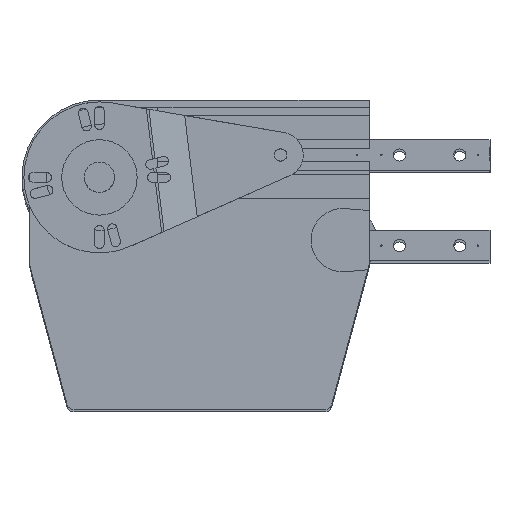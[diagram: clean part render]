
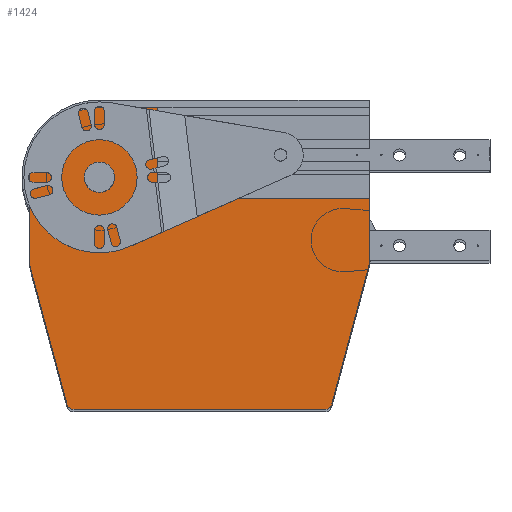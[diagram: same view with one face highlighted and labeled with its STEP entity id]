
A CAD part, top view. The second image highlights one B-rep face of the part: STEP entity #1424.
In plain terms, the highlighted planar face has unit normal (0, 0, 1).
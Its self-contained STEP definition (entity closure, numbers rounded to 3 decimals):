
#78 = ORIENTED_EDGE ( 'NONE', *, *, #3998, .T. ) ;
#103 = CARTESIAN_POINT ( 'NONE',  ( 5.17, -109.636, 462.5 ) ) ;
#144 = VECTOR ( 'NONE', #7462, 1000. ) ;
#193 = CARTESIAN_POINT ( 'NONE',  ( 29.73, -201.294, 462.5 ) ) ;
#289 = CARTESIAN_POINT ( 'NONE',  ( 230., -109., 462.5 ) ) ;
#369 = ORIENTED_EDGE ( 'NONE', *, *, #5539, .T. ) ;
#510 = CARTESIAN_POINT ( 'NONE',  ( 90., -46.4, 462.5 ) ) ;
#560 = ORIENTED_EDGE ( 'NONE', *, *, #2603, .T. ) ;
#569 = CIRCLE ( 'NONE', #5041, 10. ) ;
#627 = LINE ( 'NONE', #5972, #805 ) ;
#669 = DIRECTION ( 'NONE',  ( 0., 0., -1. ) ) ;
#729 = CIRCLE ( 'NONE', #3255, 46.3 ) ;
#741 = CIRCLE ( 'NONE', #4893, 5. ) ;
#782 = VERTEX_POINT ( 'NONE', #2668 ) ;
#805 = VECTOR ( 'NONE', #1691, 1000. ) ;
#840 = VERTEX_POINT ( 'NONE', #5872 ) ;
#874 = VERTEX_POINT ( 'NONE', #2801 ) ;
#960 = CARTESIAN_POINT ( 'NONE',  ( 10., -108.342, 462.5 ) ) ;
#969 = EDGE_CURVE ( 'NONE', #1595, #6910, #6181, .T. ) ;
#978 = DIRECTION ( 'NONE',  ( -1., 0., 0. ) ) ;
#1175 = CARTESIAN_POINT ( 'NONE',  ( 90., -5., 462.5 ) ) ;
#1298 = ORIENTED_EDGE ( 'NONE', *, *, #2042, .T. ) ;
#1424 = ADVANCED_FACE ( 'NONE', ( #1848, #2424 ), #7281, .F. ) ;
#1537 = CARTESIAN_POINT ( 'NONE',  ( 200.44, -200., 462.5 ) ) ;
#1554 = CARTESIAN_POINT ( 'NONE',  ( 51.3, -51.3, 462.5 ) ) ;
#1566 = ORIENTED_EDGE ( 'NONE', *, *, #7501, .T. ) ;
#1595 = VERTEX_POINT ( 'NONE', #1175 ) ;
#1655 = CARTESIAN_POINT ( 'NONE',  ( 41.3, -51.3, 462.5 ) ) ;
#1691 = DIRECTION ( 'NONE',  ( 0.259, 0.966, 0. ) ) ;
#1848 = FACE_BOUND ( 'NONE', #5198, .T. ) ;
#1955 = EDGE_CURVE ( 'NONE', #874, #782, #6588, .T. ) ;
#2042 = EDGE_CURVE ( 'NONE', #3934, #6827, #6800, .T. ) ;
#2089 = LINE ( 'NONE', #4288, #144 ) ;
#2152 = CARTESIAN_POINT ( 'NONE',  ( 5., -51.3, 462.5 ) ) ;
#2157 = ORIENTED_EDGE ( 'NONE', *, *, #2423, .T. ) ;
#2193 = DIRECTION ( 'NONE',  ( -1., 0., 0. ) ) ;
#2274 = CARTESIAN_POINT ( 'NONE',  ( 34.56, -200., 462.5 ) ) ;
#2363 = CARTESIAN_POINT ( 'NONE',  ( 200.44, -205., 462.5 ) ) ;
#2377 = EDGE_CURVE ( 'NONE', #6827, #3934, #569, .T. ) ;
#2394 = CARTESIAN_POINT ( 'NONE',  ( 51.3, -5., 462.5 ) ) ;
#2423 = EDGE_CURVE ( 'NONE', #3897, #840, #741, .T. ) ;
#2424 = FACE_OUTER_BOUND ( 'NONE', #5545, .T. ) ;
#2436 = ORIENTED_EDGE ( 'NONE', *, *, #5250, .T. ) ;
#2479 = ORIENTED_EDGE ( 'NONE', *, *, #5425, .T. ) ;
#2603 = EDGE_CURVE ( 'NONE', #782, #1595, #4512, .T. ) ;
#2668 = CARTESIAN_POINT ( 'NONE',  ( 90., -65., 462.5 ) ) ;
#2671 = VECTOR ( 'NONE', #4394, 1000. ) ;
#2687 = AXIS2_PLACEMENT_3D ( 'NONE', #1537, #3939, #2782 ) ;
#2782 = DIRECTION ( 'NONE',  ( -1., 0., 0. ) ) ;
#2792 = CARTESIAN_POINT ( 'NONE',  ( 34.56, -205., 462.5 ) ) ;
#2801 = CARTESIAN_POINT ( 'NONE',  ( 230., -65., 462.5 ) ) ;
#2849 = DIRECTION ( 'NONE',  ( 0., -1., 0. ) ) ;
#2899 = CARTESIAN_POINT ( 'NONE',  ( 200.44, -200., 462.5 ) ) ;
#2997 = VERTEX_POINT ( 'NONE', #4403 ) ;
#3058 = DIRECTION ( 'NONE',  ( 0., 0., 1. ) ) ;
#3138 = DIRECTION ( 'NONE',  ( -1., 0., 0. ) ) ;
#3255 = AXIS2_PLACEMENT_3D ( 'NONE', #3568, #3058, #4863 ) ;
#3375 = DIRECTION ( 'NONE',  ( -1., 0., 0. ) ) ;
#3415 = DIRECTION ( 'NONE',  ( 1., 0., 0. ) ) ;
#3475 = DIRECTION ( 'NONE',  ( 0., 0., -1. ) ) ;
#3568 = CARTESIAN_POINT ( 'NONE',  ( 51.3, -51.3, 462.5 ) ) ;
#3771 = CARTESIAN_POINT ( 'NONE',  ( 51.3, -5., 462.5 ) ) ;
#3897 = VERTEX_POINT ( 'NONE', #193 ) ;
#3934 = VERTEX_POINT ( 'NONE', #4533 ) ;
#3939 = DIRECTION ( 'NONE',  ( 0., 0., 1. ) ) ;
#3998 = EDGE_CURVE ( 'NONE', #840, #7722, #8011, .T. ) ;
#4046 = EDGE_CURVE ( 'NONE', #6044, #5408, #5066, .T. ) ;
#4129 = DIRECTION ( 'NONE',  ( 0., 0., 1. ) ) ;
#4284 = DIRECTION ( 'NONE',  ( 0., 1., 0. ) ) ;
#4288 = CARTESIAN_POINT ( 'NONE',  ( 230., -106.4, 462.5 ) ) ;
#4394 = DIRECTION ( 'NONE',  ( 0.259, -0.966, 0. ) ) ;
#4403 = CARTESIAN_POINT ( 'NONE',  ( 205.27, -201.294, 462.5 ) ) ;
#4512 = LINE ( 'NONE', #510, #6495 ) ;
#4533 = CARTESIAN_POINT ( 'NONE',  ( 61.3, -51.3, 462.5 ) ) ;
#4622 = AXIS2_PLACEMENT_3D ( 'NONE', #7483, #669, #5652 ) ;
#4635 = ORIENTED_EDGE ( 'NONE', *, *, #6216, .T. ) ;
#4863 = DIRECTION ( 'NONE',  ( -1., 0., 0. ) ) ;
#4893 = AXIS2_PLACEMENT_3D ( 'NONE', #2274, #6559, #2193 ) ;
#5041 = AXIS2_PLACEMENT_3D ( 'NONE', #1554, #7212, #978 ) ;
#5066 = LINE ( 'NONE', #2152, #7117 ) ;
#5111 = VECTOR ( 'NONE', #3375, 1000. ) ;
#5198 = EDGE_LOOP ( 'NONE', ( #1298, #6927 ) ) ;
#5250 = EDGE_CURVE ( 'NONE', #7232, #3897, #6792, .T. ) ;
#5292 = CARTESIAN_POINT ( 'NONE',  ( 5., -51.3, 462.5 ) ) ;
#5408 = VERTEX_POINT ( 'NONE', #7286 ) ;
#5425 = EDGE_CURVE ( 'NONE', #5408, #7232, #6685, .T. ) ;
#5510 = ORIENTED_EDGE ( 'NONE', *, *, #1955, .T. ) ;
#5539 = EDGE_CURVE ( 'NONE', #6910, #6044, #729, .T. ) ;
#5545 = EDGE_LOOP ( 'NONE', ( #560, #7612, #369, #7999, #2479, #2436, #2157, #78, #1566, #4635, #6619, #5510 ) ) ;
#5652 = DIRECTION ( 'NONE',  ( -1., 0., 0. ) ) ;
#5771 = VECTOR ( 'NONE', #3138, 1000. ) ;
#5803 = AXIS2_PLACEMENT_3D ( 'NONE', #960, #4129, #6599 ) ;
#5872 = CARTESIAN_POINT ( 'NONE',  ( 34.56, -205., 462.5 ) ) ;
#5954 = CARTESIAN_POINT ( 'NONE',  ( 230., -65., 462.5 ) ) ;
#5963 = VERTEX_POINT ( 'NONE', #289 ) ;
#5972 = CARTESIAN_POINT ( 'NONE',  ( 230., -109., 462.5 ) ) ;
#6044 = VERTEX_POINT ( 'NONE', #5292 ) ;
#6181 = LINE ( 'NONE', #3771, #5771 ) ;
#6216 = EDGE_CURVE ( 'NONE', #2997, #5963, #627, .T. ) ;
#6322 = CARTESIAN_POINT ( 'NONE',  ( 5.17, -109.636, 462.5 ) ) ;
#6495 = VECTOR ( 'NONE', #4284, 1000. ) ;
#6559 = DIRECTION ( 'NONE',  ( 0., 0., 1. ) ) ;
#6588 = LINE ( 'NONE', #5954, #5111 ) ;
#6599 = DIRECTION ( 'NONE',  ( -1., 0., 0. ) ) ;
#6619 = ORIENTED_EDGE ( 'NONE', *, *, #7916, .T. ) ;
#6685 = CIRCLE ( 'NONE', #5803, 5. ) ;
#6792 = LINE ( 'NONE', #6322, #2671 ) ;
#6800 = CIRCLE ( 'NONE', #4622, 10. ) ;
#6827 = VERTEX_POINT ( 'NONE', #1655 ) ;
#6910 = VERTEX_POINT ( 'NONE', #2394 ) ;
#6927 = ORIENTED_EDGE ( 'NONE', *, *, #2377, .T. ) ;
#7117 = VECTOR ( 'NONE', #2849, 1000. ) ;
#7212 = DIRECTION ( 'NONE',  ( 0., 0., -1. ) ) ;
#7232 = VERTEX_POINT ( 'NONE', #103 ) ;
#7281 = PLANE ( 'NONE',  #7921 ) ;
#7286 = CARTESIAN_POINT ( 'NONE',  ( 5., -108.342, 462.5 ) ) ;
#7462 = DIRECTION ( 'NONE',  ( 0., 1., 0. ) ) ;
#7483 = CARTESIAN_POINT ( 'NONE',  ( 51.3, -51.3, 462.5 ) ) ;
#7501 = EDGE_CURVE ( 'NONE', #7722, #2997, #7633, .T. ) ;
#7508 = VECTOR ( 'NONE', #3415, 1000. ) ;
#7612 = ORIENTED_EDGE ( 'NONE', *, *, #969, .T. ) ;
#7633 = CIRCLE ( 'NONE', #2687, 5. ) ;
#7722 = VERTEX_POINT ( 'NONE', #2363 ) ;
#7844 = DIRECTION ( 'NONE',  ( -1., 0., 0. ) ) ;
#7916 = EDGE_CURVE ( 'NONE', #5963, #874, #2089, .T. ) ;
#7921 = AXIS2_PLACEMENT_3D ( 'NONE', #2899, #3475, #7844 ) ;
#7999 = ORIENTED_EDGE ( 'NONE', *, *, #4046, .T. ) ;
#8011 = LINE ( 'NONE', #2792, #7508 ) ;
